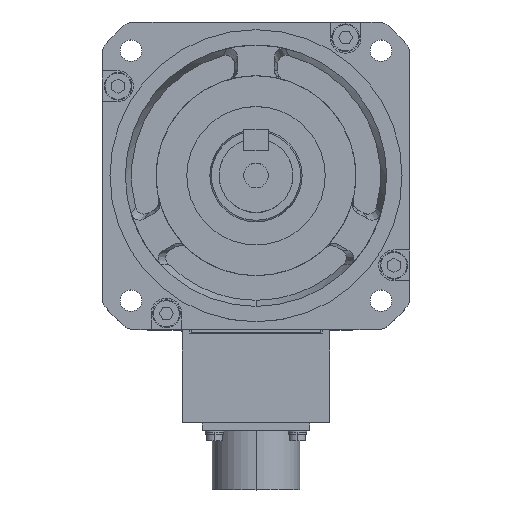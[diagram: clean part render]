
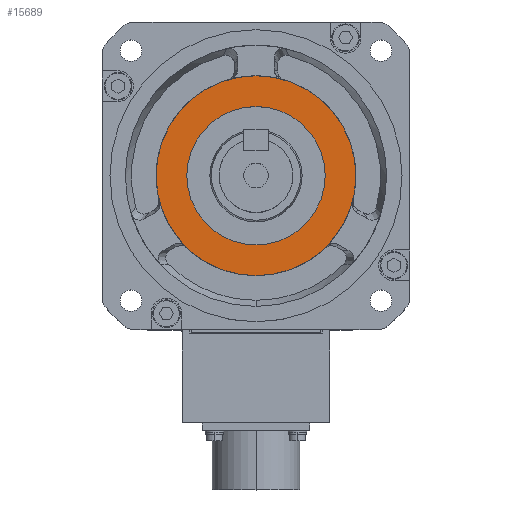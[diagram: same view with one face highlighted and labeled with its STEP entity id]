
A CAD part, top view. The second image highlights one B-rep face of the part: STEP entity #15689.
In plain terms, the highlighted planar face has unit normal (0, 0, 1).
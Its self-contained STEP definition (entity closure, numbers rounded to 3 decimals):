
#531 = VERTEX_POINT ( 'NONE', #17075 ) ;
#533 = VERTEX_POINT ( 'NONE', #17074 ) ;
#540 = EDGE_CURVE ( 'NONE', #533, #531, #17064, .T. ) ;
#1114 = EDGE_CURVE ( 'NONE', #531, #533, #18164, .T. ) ;
#8055 = DIRECTION ( 'NONE',  ( 1., 0., 0. ) ) ;
#8056 = DIRECTION ( 'NONE',  ( 0., 0., 1. ) ) ;
#8057 = CARTESIAN_POINT ( 'NONE',  ( 0., 0., 3.5 ) ) ;
#8058 = AXIS2_PLACEMENT_3D ( 'NONE', #8057, #8056, #8055 ) ;
#8059 = CIRCLE ( 'NONE', #8058, 22.5 ) ;
#8060 = DIRECTION ( 'NONE',  ( 1., 0., 0. ) ) ;
#8061 = DIRECTION ( 'NONE',  ( 0., 0., 1. ) ) ;
#8062 = CARTESIAN_POINT ( 'NONE',  ( 0., 0., 3.5 ) ) ;
#8063 = AXIS2_PLACEMENT_3D ( 'NONE', #8062, #8061, #8060 ) ;
#8064 = PLANE ( 'NONE',  #8063 ) ;
#8070 = FACE_OUTER_BOUND ( 'NONE', #15694, .T. ) ;
#8071 = FACE_BOUND ( 'NONE', #15690, .T. ) ;
#9864 = VERTEX_POINT ( 'NONE', #19836 ) ;
#9866 = EDGE_CURVE ( 'NONE', #9864, #9867, #19835, .T. ) ;
#9867 = VERTEX_POINT ( 'NONE', #19830 ) ;
#15689 = ADVANCED_FACE ( 'NONE', ( #8071, #8070 ), #8064, .T. ) ;
#15690 = EDGE_LOOP ( 'NONE', ( #15691, #15693 ) ) ;
#15691 = ORIENTED_EDGE ( 'NONE', *, *, #15692, .F. ) ;
#15692 = EDGE_CURVE ( 'NONE', #9867, #9864, #8059, .T. ) ;
#15693 = ORIENTED_EDGE ( 'NONE', *, *, #9866, .F. ) ;
#15694 = EDGE_LOOP ( 'NONE', ( #15695, #15696 ) ) ;
#15695 = ORIENTED_EDGE ( 'NONE', *, *, #540, .F. ) ;
#15696 = ORIENTED_EDGE ( 'NONE', *, *, #1114, .F. ) ;
#17060 = DIRECTION ( 'NONE',  ( 0., 1., 0. ) ) ;
#17061 = DIRECTION ( 'NONE',  ( 0., 0., -1. ) ) ;
#17062 = CARTESIAN_POINT ( 'NONE',  ( 0., 0., 3.5 ) ) ;
#17063 = AXIS2_PLACEMENT_3D ( 'NONE', #17062, #17061, #17060 ) ;
#17064 = CIRCLE ( 'NONE', #17063, 32.5 ) ;
#17074 = CARTESIAN_POINT ( 'NONE',  ( 0., 32.5, 3.5 ) ) ;
#17075 = CARTESIAN_POINT ( 'NONE',  ( 0., -32.5, 3.5 ) ) ;
#18160 = DIRECTION ( 'NONE',  ( 0., 1., 0. ) ) ;
#18161 = DIRECTION ( 'NONE',  ( 0., 0., -1. ) ) ;
#18162 = CARTESIAN_POINT ( 'NONE',  ( 0., 0., 3.5 ) ) ;
#18163 = AXIS2_PLACEMENT_3D ( 'NONE', #18162, #18161, #18160 ) ;
#18164 = CIRCLE ( 'NONE', #18163, 32.5 ) ;
#19830 = CARTESIAN_POINT ( 'NONE',  ( 22.5, 0., 3.5 ) ) ;
#19831 = DIRECTION ( 'NONE',  ( 1., 0., 0. ) ) ;
#19832 = DIRECTION ( 'NONE',  ( 0., 0., 1. ) ) ;
#19833 = CARTESIAN_POINT ( 'NONE',  ( 0., 0., 3.5 ) ) ;
#19834 = AXIS2_PLACEMENT_3D ( 'NONE', #19833, #19832, #19831 ) ;
#19835 = CIRCLE ( 'NONE', #19834, 22.5 ) ;
#19836 = CARTESIAN_POINT ( 'NONE',  ( -22.5, 0., 3.5 ) ) ;
